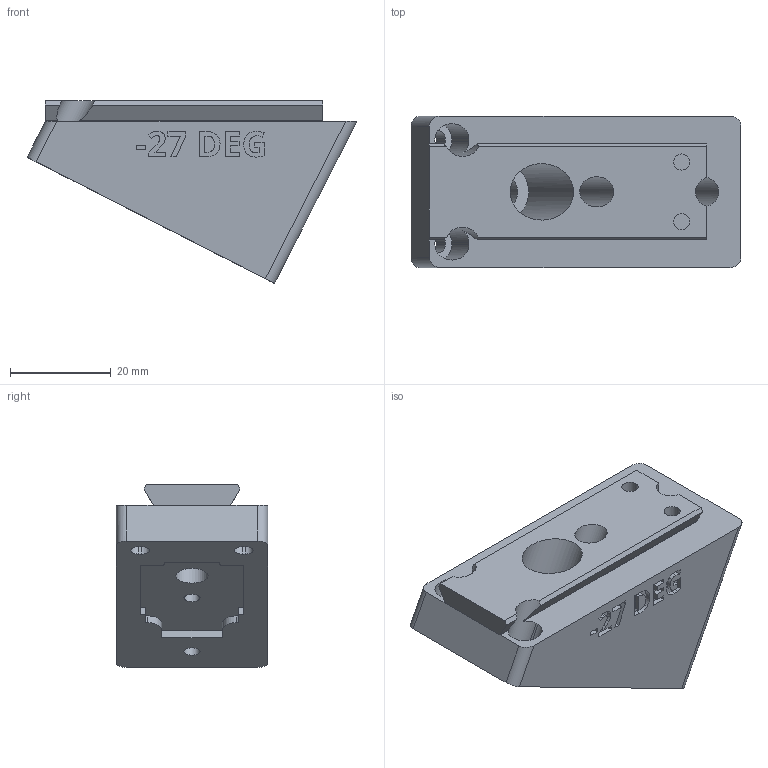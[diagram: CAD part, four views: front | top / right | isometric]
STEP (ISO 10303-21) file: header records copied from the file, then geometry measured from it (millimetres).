
FILE_DESCRIPTION(/* description */ ('STEP AP242 Edition 2','CAx-IF Rec.Pracs.---Representation and Presentation of Product Manufacturing Information (PMI)---4.0---2014-10-13','CAx-IF Rec.Pracs.---3D Tessellated Geometry---0.4---2014-09-14','2;1','CAx-IF Rec.Pracs.---User Defined Attributes---1.5---2016-08-15'),/* implementation_level */ '2;1');
FILE_NAME(/* name */ 'Camera Wedges - CAMERA MOUNTING WEDGE, NEG, -27 DEG',/* time_stamp */ '2026-08-11T00:07:34Z',/* author */ (''),/* organization */ (''),/* preprocessor_version */ 'ST-DEVELOPER v20',/* originating_system */ 'ONSHAPE BY PTC INC, 1.219',/* authorisation */ ' ');
FILE_SCHEMA (('AP242_MANAGED_MODEL_BASED_3D_ENGINEERING_MIM_LF { 1 0 10303 442 3 1 4 }'));
Length unit declared in the file: metre
Products named in the file (1): CAMERA MOUNTING WEDGE, NEG, -27 DEG
Bounding box: 65.35 x 30 x 36.18 mm (x, y, z)
Volume: 35218.4 mm3; surface area: 10317.3 mm2
Topology: 1 solids, 1 shells, 248 faces, 679 edges, 452 vertices
Faces by surface type: plane 152, cylinder 52, bspline 44
Full cylindrical faces by diameter (mm): 3.2 x4, 6 x2, 6.4 x1, 11.2 x1
Entity records: 7975 total; most frequent: CARTESIAN_POINT 1854, ORIENTED_EDGE 1340, DIRECTION 1111, EDGE_CURVE 670, LINE 463, VECTOR 463, VERTEX_POINT 451, AXIS2_PLACEMENT_3D 324
